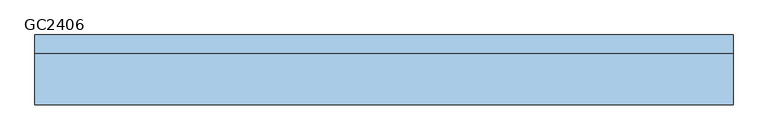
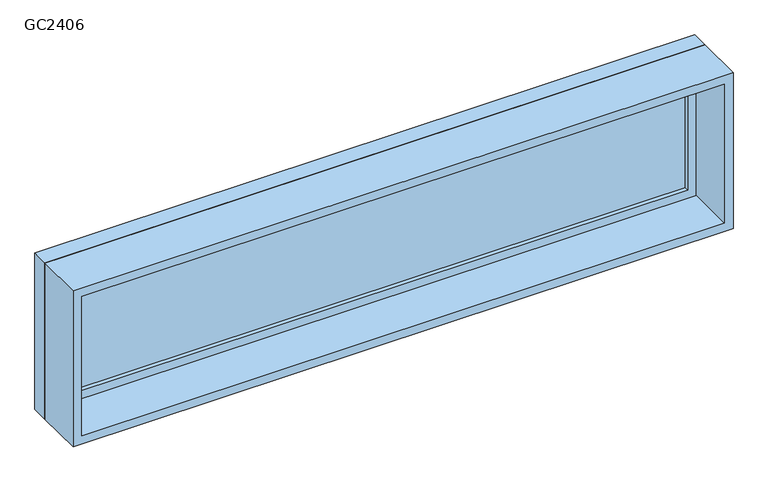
"""IFC4 building model written with IfcOpenShell, lengths in millimetres: window geometry, 固定 : GC2406."""

import ifcopenshell
import ifcopenshell.guid

model = None  # the IFC model being written
_history = None  # IfcOwnerHistory: only IFC2X3 demands one
_inside = {}  # id of a spatial element -> (the spatial element, [elements in it])
_under = {}  # id of a project, library or spatial element -> (it, [spatial elements below it])
_declared = {}  # id of a project -> (the project, [libraries it declares])
_typed = {}  # id of a type object -> (the type object, [elements of that type])
_made_of = {}  # id of a material, layer set ... -> (it, [elements and type objects made of it])


def new_model(schema):
    """Start an empty IFC model of exactly this schema.

    Asked for "IFC4X3", IfcOpenShell would pick the latest addendum, in which some entities
    have other attributes; the version numbers below select the first issue.
    IFC2X3 requires an IfcOwnerHistory on every rooted entity: one is made here for all.
    """
    global model, _history
    if schema == "IFC4X3":
        model = ifcopenshell.file(schema_version=(4, 3, 0, 0))
    else:
        model = ifcopenshell.file(schema=schema)
    _inside.clear()
    _under.clear()
    _declared.clear()
    _typed.clear()
    _made_of.clear()
    _history = None
    if model.schema == "IFC2X3":
        org = make("IfcOrganization", Name="unknown")
        user = make(
            "IfcPersonAndOrganization",
            ThePerson=make("IfcPerson", FamilyName="unknown"),
            TheOrganization=org,
        )
        app = make(
            "IfcApplication",
            ApplicationDeveloper=org,
            Version="unknown",
            ApplicationFullName="unknown",
            ApplicationIdentifier="unknown",
        )
        _history = make(
            "IfcOwnerHistory",
            OwningUser=user,
            OwningApplication=app,
            ChangeAction="ADDED",
            CreationDate=0,
        )
    return model


def make(cls, **values):
    """One entity of the class cls with the attributes given. An attribute that is None is left unset."""
    return model.create_entity(
        cls, **{name: value for name, value in values.items() if value is not None}
    )


def rooted(cls, **values):
    """An entity with a GlobalId (a new one), such as an element, a storey or a relation."""
    return make(cls, GlobalId=ifcopenshell.guid.new(), OwnerHistory=_history, **values)


def si_unit(unit_type, name, prefix=None):
    """IfcSIUnit, for example si_unit("LENGTHUNIT", "METRE", prefix="MILLI")."""
    return make("IfcSIUnit", UnitType=unit_type, Prefix=prefix, Name=name)


def assignment(units):
    """IfcUnitAssignment: the units of a project."""
    return None if units is None else make("IfcUnitAssignment", Units=units)


def point(xyz):
    """IfcCartesianPoint."""
    return None if xyz is None else make("IfcCartesianPoint", Coordinates=xyz)


def direction(xyz):
    """IfcDirection."""
    return None if xyz is None else make("IfcDirection", DirectionRatios=xyz)


def frame(location, z_axis=None, x_axis=None):
    """IfcAxis2Placement3D, a coordinate frame: its origin and axes. An axis left out is left unset."""
    return make(
        "IfcAxis2Placement3D",
        Location=point(location),
        Axis=direction(z_axis),
        RefDirection=direction(x_axis),
    )


def origin():
    """The frame at (0, 0, 0) with its axes left unset."""
    return frame((0.0, 0.0, 0.0))


def place(relative_to, where):
    """IfcLocalPlacement: puts the frame where relative to a parent placement (None: the world)."""
    return make(
        "IfcLocalPlacement", PlacementRelTo=relative_to, RelativePlacement=where
    )


def context(
    kind, dimensions, precision=None, world=None, true_north=None, identifier=None
):
    """IfcGeometricRepresentationContext, for example the 3D "Model" context."""
    return make(
        "IfcGeometricRepresentationContext",
        ContextIdentifier=identifier,
        ContextType=kind,
        CoordinateSpaceDimension=dimensions,
        Precision=precision,
        WorldCoordinateSystem=world,
        TrueNorth=true_north,
    )


def project(units=None, contexts=None):
    """IfcProject with its units and contexts."""
    return rooted(
        "IfcProject",
        Name="project",
        RepresentationContexts=contexts,
        UnitsInContext=assignment(units),
    )


def spatial(cls, under=None, at=None, **own):
    """A site, building, storey or space (cls), placed at a placement, below another one or the project."""
    s = rooted(cls, ObjectPlacement=at, **own)
    if under is not None:
        _under.setdefault(under.id(), (under, []))[1].append(s)
    return s


def polyline(points):
    """IfcPolyline through the points."""
    return make("IfcPolyline", Points=[point(p) for p in points])


def outline(outer, holes=None, kind="AREA"):
    """IfcArbitraryClosedProfileDef: a profile drawn as a closed curve; with holes, ...WithVoids."""
    if holes is None:
        return make("IfcArbitraryClosedProfileDef", ProfileType=kind, OuterCurve=outer)
    return make(
        "IfcArbitraryProfileDefWithVoids",
        ProfileType=kind,
        OuterCurve=outer,
        InnerCurves=holes,
    )


def extrude(swept, where, along, depth):
    """IfcExtrudedAreaSolid: the profile swept, set in the frame where, extruded along a direction by depth."""
    return make(
        "IfcExtrudedAreaSolid",
        SweptArea=swept,
        Position=where,
        ExtrudedDirection=direction(along),
        Depth=depth,
    )


def shape(context_of_items, identifier, shape_type, items):
    """IfcShapeRepresentation: the items that make up one representation, for example the "Body"."""
    return make(
        "IfcShapeRepresentation",
        ContextOfItems=context_of_items,
        RepresentationIdentifier=identifier,
        RepresentationType=shape_type,
        Items=items,
    )


def source(mapping_origin, context_of_items, identifier, shape_type, items):
    """IfcRepresentationMap: a shape defined once, which mapped items show again and again."""
    return make(
        "IfcRepresentationMap",
        MappingOrigin=mapping_origin,
        MappedRepresentation=shape(context_of_items, identifier, shape_type, items),
    )


def transform(
    local_origin,
    x_axis=None,
    y_axis=None,
    z_axis=None,
    scale=None,
    scale2=None,
    scale3=None,
    uniform=True,
):
    """IfcCartesianTransformationOperator3D, or its non-uniform kind. x_axis, y_axis, z_axis: its Axis1, 2, 3."""
    if uniform:
        return make(
            "IfcCartesianTransformationOperator3D",
            Axis1=direction(x_axis),
            Axis2=direction(y_axis),
            LocalOrigin=point(local_origin),
            Scale=scale,
            Axis3=direction(z_axis),
        )
    return make(
        "IfcCartesianTransformationOperator3DnonUniform",
        Axis1=direction(x_axis),
        Axis2=direction(y_axis),
        LocalOrigin=point(local_origin),
        Scale=scale,
        Axis3=direction(z_axis),
        Scale2=scale2,
        Scale3=scale3,
    )


def mapped(mapping_source, mapping_target):
    """IfcMappedItem: shows the shape of a source again, moved by a transform."""
    return make(
        "IfcMappedItem", MappingSource=mapping_source, MappingTarget=mapping_target
    )


def made_of(thing, what):
    """Note that an element or type object is made of a material, layer set ...; save() writes the relation."""
    if what is not None:
        _made_of.setdefault(what.id(), (what, []))[1].append(thing)
    return thing


def element(
    cls,
    number,
    at=None,
    inside=None,
    cuts=None,
    type_object=None,
    material=None,
    context=None,
    identifier="Body",
    shape_type=None,
    held_by="IfcProductDefinitionShape",
    body=None,
    shapes=None,
    **own,
):
    """One element of the class cls, such as IfcWall. Its Tag is "e" and its number.

    at: its placement. inside: the storey or other place that contains it. cuts: it is an
    opening in that element (IfcRelVoidsElement). A single representation is given by context,
    identifier, shape_type and body (its items); several are given by shapes. held_by: the class
    of the entity that holds the representations. save() writes the other relations.
    """
    e = rooted(cls, Tag="e%d" % number, ObjectPlacement=at, **own)
    if body is not None:
        shapes = [shape(context, identifier, shape_type, body)]
    if shapes is not None:
        e.Representation = make(held_by, Representations=shapes)
    if inside is not None:
        _inside.setdefault(inside.id(), (inside, []))[1].append(e)
    if cuts is not None:
        rooted(
            "IfcRelVoidsElement", RelatingBuildingElement=cuts, RelatedOpeningElement=e
        )
    if type_object is not None:
        _typed.setdefault(type_object.id(), (type_object, []))[1].append(e)
    return made_of(e, material)


def aggregate(whole, parts):
    """IfcRelAggregates: a whole, such as a stair, and the parts it consists of."""
    return rooted("IfcRelAggregates", RelatingObject=whole, RelatedObjects=parts)


def save(model, path):
    """Write the relations noted so far, then the file.

    IfcRelAggregates (storeys below a building ...), IfcRelContainedInSpatialStructure (elements
    in a storey), IfcRelDefinesByType, IfcRelAssociatesMaterial and IfcRelDeclares: one each for
    every whole, place, type object, material and project.
    """
    for whole, parts in _under.values():
        aggregate(whole, parts)
    for where, things in _inside.values():
        rooted(
            "IfcRelContainedInSpatialStructure",
            RelatedElements=things,
            RelatingStructure=where,
        )
    for kind, things in _typed.values():
        rooted("IfcRelDefinesByType", RelatedObjects=things, RelatingType=kind)
    for what, things in _made_of.values():
        rooted("IfcRelAssociatesMaterial", RelatedObjects=things, RelatingMaterial=what)
    for by, libraries in _declared.values():
        rooted("IfcRelDeclares", RelatingContext=by, RelatedDefinitions=libraries)
    model.write(path)


def gc2406_33aaf671(model_context):
    return source(origin(), model_context, "Body", "SweptSolid", [
        extrude(outline(polyline([(-1137.0, 98.0), (1137.0, 98.0), (1137.0, 86.0), (-1137.0, 86.0), (-1137.0, 98.0)])), frame((0.0, 0.0, 978.0), z_axis=(0.0, 0.0, 1.0), x_axis=(1.0, 0.0, 0.0)), (0.0, 0.0, 1.0), 474.0),
        extrude(outline(polyline([(1496.0, -1181.0), (934.0, -1181.0), (934.0, 1181.0), (1496.0, 1181.0), (1496.0, -1181.0)]), holes=[polyline([(1452.0, -1137.0), (1452.0, 1137.0), (978.0, 1137.0), (978.0, -1137.0), (1452.0, -1137.0)])]), frame((0.0, 70.0, 0.0), z_axis=(0.0, 1.0, 0.0), x_axis=(0.0, 0.0, 1.0)), (0.0, 0.0, 1.0), 44.0),
        extrude(outline(polyline([(1515.0, -1200.0), (915.0, -1200.0), (915.0, 1200.0), (1515.0, 1200.0), (1515.0, -1200.0)]), holes=[polyline([(1496.0, -1181.0), (1496.0, 1181.0), (934.0, 1181.0), (934.0, -1181.0), (1496.0, -1181.0)])]), frame((0.0, 70.0, 0.0), z_axis=(0.0, 1.0, 0.0), x_axis=(0.0, 0.0, 1.0)), (0.0, 0.0, 1.0), 63.0),
        extrude(outline(polyline([(1515.0, -1200.0), (915.0, -1200.0), (915.0, 1200.0), (1515.0, 1200.0), (1515.0, -1200.0)]), holes=[polyline([(1483.0, -1168.0), (1483.0, 1168.0), (947.0, 1168.0), (947.0, -1168.0), (1483.0, -1168.0)])]), frame((0.0, -107.0, 0.0), z_axis=(0.0, 1.0, 0.0), x_axis=(0.0, 0.0, 1.0)), (0.0, 0.0, 1.0), 177.0),
    ])


if __name__ == "__main__":
    model = new_model("IFC4")
    model_context = context("Model", 3, world=origin())
    ifc_project = project(units=[si_unit("LENGTHUNIT", "METRE", prefix="MILLI")], contexts=[model_context])
    site = spatial("IfcSite", under=ifc_project)
    building = spatial("IfcBuilding", under=site)
    placement = place(None, origin())
    gc2406_shape = gc2406_33aaf671(model_context)
    element("IfcWindow", 1, ObjectType="固定 : GC2406", at=placement, inside=building, context=model_context, shape_type="MappedRepresentation", body=[
        mapped(gc2406_shape, transform((0.0, 0.0, 0.0), x_axis=(1.0, 0.0, 0.0), y_axis=(0.0, 1.0, 0.0), z_axis=(0.0, 0.0, 1.0))),
    ])
    save(model, "model.ifc")
